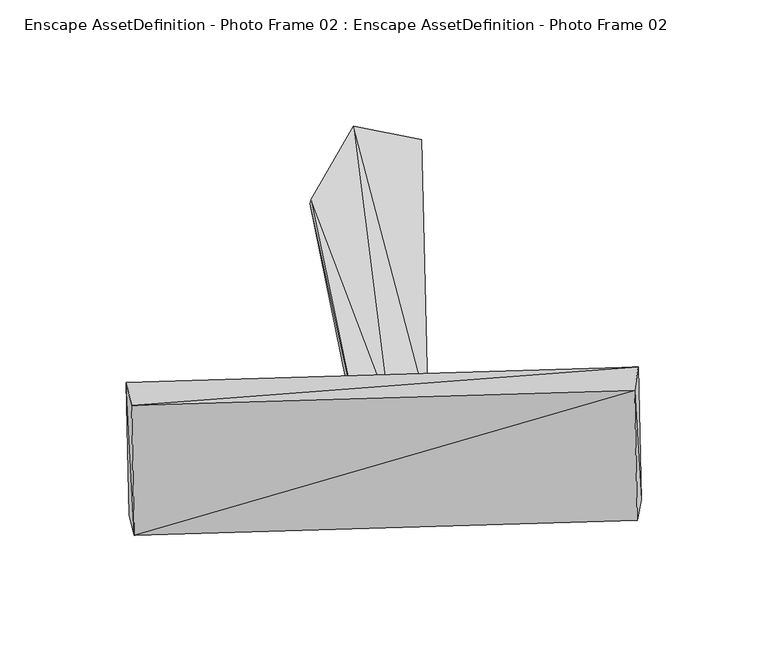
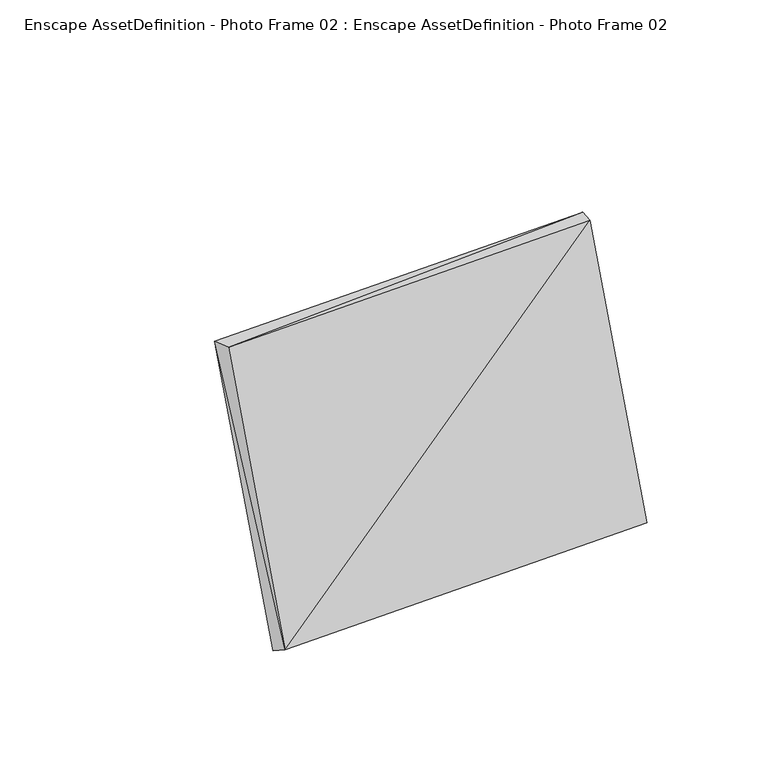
"""IFC4 building model written with IfcOpenShell, lengths in millimetres: geographic element geometry, Enscape AssetDefinition - Photo Frame 02 : Enscape AssetDefinition - Photo Frame 02."""

from ifc_helpers import new_model, si_unit, origin, place, context, project, spatial, faceted_brep, source, transform, mapped, element, save


def enscape_assetdefinition_photo_frame_02_enscape_bd3f4fb1(model_context):
    return source(origin(), model_context, "Body", "Brep", [
        faceted_brep([(116.7390421, -8.5722888, 5.4381639), (-82.3394209, -14.5091349, 6.1356882), (-84.4193697, -6.6028084, 1.2687998), (115.7006547, 42.839352, 147.2944021), (118.3076873, -0.5554944, 0.5618068), (-83.3778232, 36.9025022, 147.9887664), (117.2440425, 52.1249436, 145.9245831), (-85.4830146, 46.0776314, 146.6315985)], [[[0, 1, 2]], [[3, 0, 4]], [[5, 3, 6]], [[1, 5, 7]], [[1, 0, 3]], [[4, 2, 7]], [[0, 2, 4]], [[3, 4, 6]], [[5, 6, 7]], [[1, 7, 2]], [[1, 3, 5]], [[4, 7, 6]]]),
        faceted_brep([(4.4660489, 147.3859251, 2.701723), (33.9956284, 35.5421752, 96.3625014), (31.3033722, 142.1718448, 2.7175038), (-12.4449693, 118.4497178, 31.6726491), (18.290285, 37.2938737, 102.0279154), (33.2381353, 33.8820033, 94.617106), (4.1314894, 145.7131356, 0.8395541), (30.9814382, 140.5148506, 0.8395541), (17.5359491, 35.5958305, 100.3203988), (-12.7290282, 116.7453602, 29.8325755), (4.181989, 38.96036, 106.7369878), (3.4181844, 37.2275934, 105.0673574)], [[[0, 1, 2]], [[3, 4, 0]], [[5, 6, 7]], [[8, 9, 6]], [[5, 2, 1]], [[7, 0, 2]], [[8, 1, 4]], [[6, 3, 0]], [[9, 10, 3]], [[11, 4, 10]], [[1, 0, 4]], [[4, 3, 10]], [[6, 5, 8]], [[9, 8, 11]], [[2, 5, 7]], [[0, 7, 6]], [[1, 8, 5]], [[3, 6, 9]], [[10, 9, 11]], [[4, 11, 8]]]),
    ])


if __name__ == "__main__":
    model = new_model("IFC4")
    model_context = context("Model", 3, world=origin())
    ifc_project = project(units=[si_unit("LENGTHUNIT", "METRE", prefix="MILLI")], contexts=[model_context])
    site = spatial("IfcSite", under=ifc_project)
    building = spatial("IfcBuilding", under=site)
    placement = place(None, origin())
    enscape_assetdefinition_photo_frame_02_enscape_shape = enscape_assetdefinition_photo_frame_02_enscape_bd3f4fb1(model_context)
    element("IfcGeographicElement", 1, ObjectType="Enscape AssetDefinition - Photo Frame 02 : Enscape AssetDefinition - Photo Frame 02", at=placement, inside=building, context=model_context, shape_type="MappedRepresentation", body=[
        mapped(enscape_assetdefinition_photo_frame_02_enscape_shape, transform((0.0, 0.0, 0.0), x_axis=(1.0, 0.0, 0.0), y_axis=(0.0, 1.0, 0.0), z_axis=(0.0, 0.0, 1.0))),
    ])
    save(model, "model.ifc")
